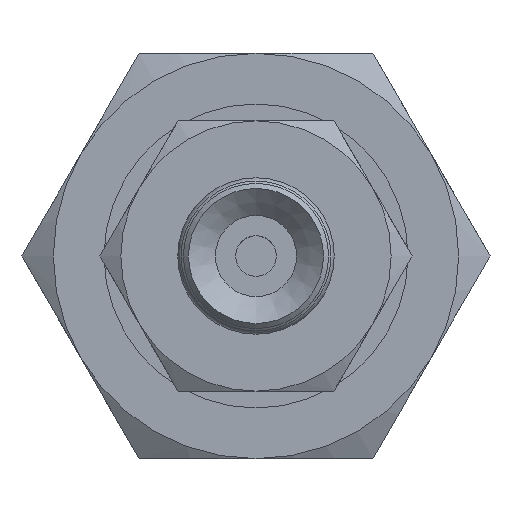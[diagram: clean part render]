
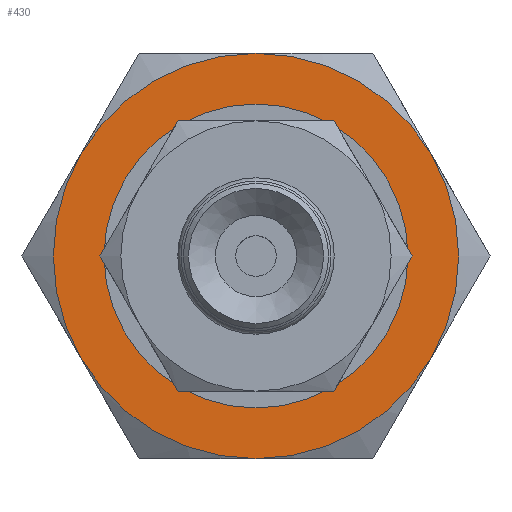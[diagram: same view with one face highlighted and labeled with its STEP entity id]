
A CAD part, front view. The second image highlights one B-rep face of the part: STEP entity #430.
In plain terms, the highlighted planar face has unit normal (0, -1, 0) as drawn and (-1, 0, 0) by its records, which use the part's own axes.
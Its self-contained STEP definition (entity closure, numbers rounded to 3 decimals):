
#430=ADVANCED_FACE('',(#590,#591),#592,.F.);
#590=FACE_BOUND('',#878,.T.);
#591=FACE_OUTER_BOUND('',#879,.T.);
#592=PLANE('',#880);
#878=EDGE_LOOP('',(#1316));
#879=EDGE_LOOP('',(#1317,#1318,#1319,#1320,#1321,#1322));
#880=AXIS2_PLACEMENT_3D('',#1323,#1324,#1325);
#1316=ORIENTED_EDGE('',*,*,#1919,.T.);
#1317=ORIENTED_EDGE('',*,*,#1900,.F.);
#1318=ORIENTED_EDGE('',*,*,#1937,.F.);
#1319=ORIENTED_EDGE('',*,*,#1933,.F.);
#1320=ORIENTED_EDGE('',*,*,#1908,.F.);
#1321=ORIENTED_EDGE('',*,*,#1907,.F.);
#1322=ORIENTED_EDGE('',*,*,#1902,.F.);
#1323=CARTESIAN_POINT('',(0.,0.0,0.0));
#1324=DIRECTION('',(1.0,0.0,0.0));
#1325=DIRECTION('',(0.0,1.0,0.0));
#1900=EDGE_CURVE('',#2134,#2137,#2138,.T.);
#1902=EDGE_CURVE('',#2137,#2140,#2141,.T.);
#1907=EDGE_CURVE('',#2140,#2145,#2149,.T.);
#1908=EDGE_CURVE('',#2145,#2150,#2151,.T.);
#1919=EDGE_CURVE('',#2169,#2169,#2170,.T.);
#1933=EDGE_CURVE('',#2150,#2183,#2190,.T.);
#1937=EDGE_CURVE('',#2183,#2134,#2195,.T.);
#2134=VERTEX_POINT('',#2548);
#2137=VERTEX_POINT('',#2571);
#2138=CIRCLE('',#2572,6.0);
#2140=VERTEX_POINT('',#2584);
#2141=CIRCLE('',#2585,6.0);
#2145=VERTEX_POINT('',#2609);
#2149=CIRCLE('',#2633,6.0);
#2150=VERTEX_POINT('',#2634);
#2151=CIRCLE('',#2635,6.0);
#2169=VERTEX_POINT('',#2693);
#2170=CIRCLE('',#2694,4.0);
#2183=VERTEX_POINT('',#2750);
#2190=CIRCLE('',#2807,6.0);
#2195=CIRCLE('',#2823,6.0);
#2548=CARTESIAN_POINT('',(0.,5.196,-3.0));
#2571=CARTESIAN_POINT('',(0.,5.196,3.0));
#2572=AXIS2_PLACEMENT_3D('',#3275,#3276,#3277);
#2584=CARTESIAN_POINT('',(0.,0.0,6.0));
#2585=AXIS2_PLACEMENT_3D('',#3278,#3279,#3280);
#2609=CARTESIAN_POINT('',(0.,-5.196,3.0));
#2633=AXIS2_PLACEMENT_3D('',#3281,#3282,#3283);
#2634=CARTESIAN_POINT('',(0.,-5.196,-3.0));
#2635=AXIS2_PLACEMENT_3D('',#3284,#3285,#3286);
#2693=CARTESIAN_POINT('',(0.,0.0,-4.0));
#2694=AXIS2_PLACEMENT_3D('',#3305,#3306,#3307);
#2750=CARTESIAN_POINT('',(0.,0.0,-6.0));
#2807=AXIS2_PLACEMENT_3D('',#3314,#3315,#3316);
#2823=AXIS2_PLACEMENT_3D('',#3321,#3322,#3323);
#3275=CARTESIAN_POINT('',(0.,0.0,0.0));
#3276=DIRECTION('',(1.0,0.0,0.0));
#3277=DIRECTION('',(0.0,0.0,-1.0));
#3278=CARTESIAN_POINT('',(0.,0.0,0.0));
#3279=DIRECTION('',(1.0,0.0,0.0));
#3280=DIRECTION('',(0.0,0.0,-1.0));
#3281=CARTESIAN_POINT('',(0.,0.0,0.0));
#3282=DIRECTION('',(1.0,0.0,0.0));
#3283=DIRECTION('',(0.0,0.0,-1.0));
#3284=CARTESIAN_POINT('',(0.,0.0,0.0));
#3285=DIRECTION('',(1.0,0.0,0.0));
#3286=DIRECTION('',(0.0,0.0,-1.0));
#3305=CARTESIAN_POINT('',(0.,0.0,0.0));
#3306=DIRECTION('',(1.0,0.0,0.0));
#3307=DIRECTION('',(0.0,0.0,-1.0));
#3314=CARTESIAN_POINT('',(0.,0.0,0.0));
#3315=DIRECTION('',(1.0,0.0,0.0));
#3316=DIRECTION('',(0.0,0.0,-1.0));
#3321=CARTESIAN_POINT('',(0.,0.0,0.0));
#3322=DIRECTION('',(1.0,0.0,0.0));
#3323=DIRECTION('',(0.0,0.0,-1.0));
